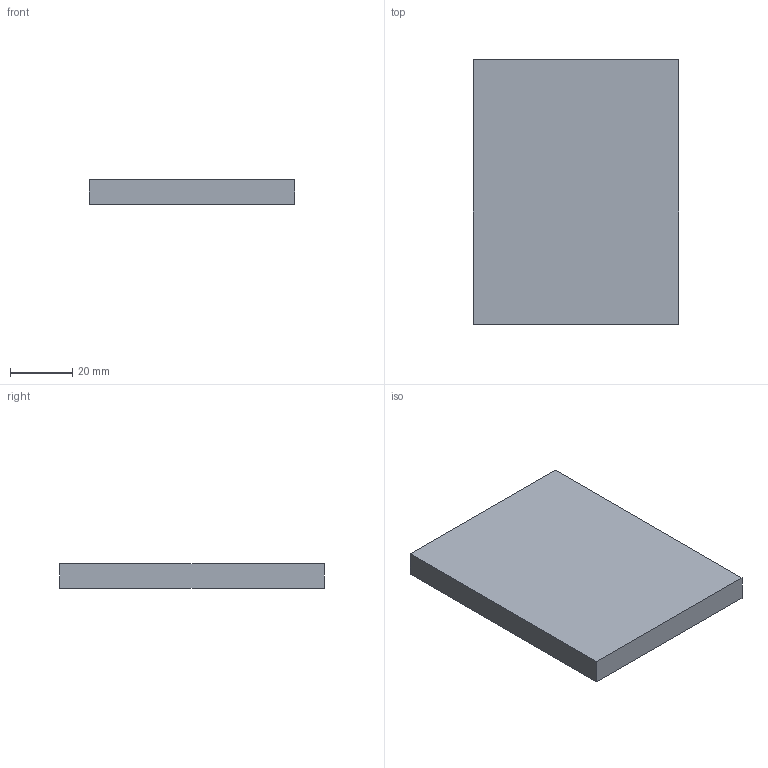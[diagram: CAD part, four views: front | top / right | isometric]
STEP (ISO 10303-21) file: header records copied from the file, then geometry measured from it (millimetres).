
FILE_DESCRIPTION(('Open CASCADE Model'),'2;1');
FILE_NAME('Open CASCADE Shape Model','2026-10-04T01:02:29',('Author'),( 'Open CASCADE'),'Open CASCADE STEP processor 8.0','Open CASCADE 8.0' ,'Unknown');
FILE_SCHEMA(('AUTOMOTIVE_DESIGN { 1 0 10303 214 1 1 1 1 }'));
Length unit declared in the file: millimetre
Products named in the file (1): Open CASCADE STEP translator 8.0 171
Bounding box: 66 x 85 x 8 mm (x, y, z)
Volume: 44880 mm3; surface area: 13636 mm2
Topology: 1 solids, 1 shells, 6 faces, 12 edges, 8 vertices
Faces by surface type: plane 6
Entity records: 322 total; most frequent: CARTESIAN_POINT 51, DIRECTION 50, LINE 36, VECTOR 36, ORIENTED_EDGE 24, PCURVE 24, DEFINITIONAL_REPRESENTATION 24, EDGE_CURVE 12
